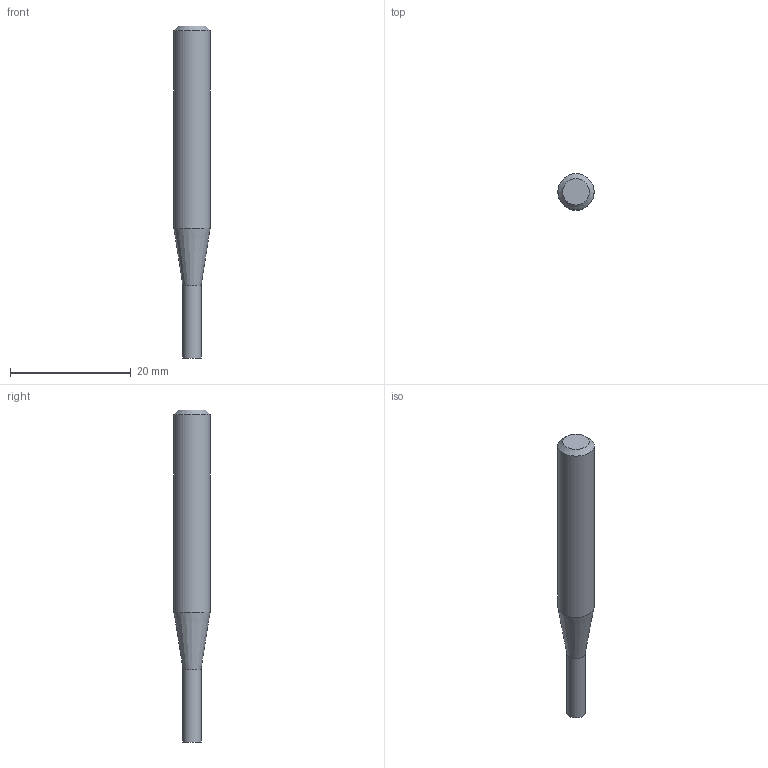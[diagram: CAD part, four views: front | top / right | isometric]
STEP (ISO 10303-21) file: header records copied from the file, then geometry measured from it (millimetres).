
FILE_DESCRIPTION((''),'2;1');
FILE_NAME('C:\Users\nsx150\AppData\Local\Temp\Mastercam 2021\W9Z147XDNF\TEMP.step','2021-04-08T14:48:29',(''),(''),'STEP Write','Mastercam 2021 ... CNC Software, Inc.','');
FILE_SCHEMA(('AUTOMOTIVE_DESIGN'));
Length unit declared in the file: millimetre
Products named in the file (1): None
Bounding box: 6 x 6 x 55 mm (x, y, z)
Volume: 1183.6 mm3; surface area: 920.5 mm2
Topology: 2 solids, 2 shells, 8 faces, 10 edges, 6 vertices
Faces by surface type: plane 4, cylinder 2, cone 2
Full cylindrical faces by diameter (mm): 3 x1, 6 x1
Entity records: 190 total; most frequent: DIRECTION 32, CARTESIAN_POINT 22, AXIS2_PLACEMENT_3D 16, ORIENTED_EDGE 12, EDGE_LOOP 12, STYLED_ITEM 11, ADVANCED_FACE 8, VERTEX_POINT 6
